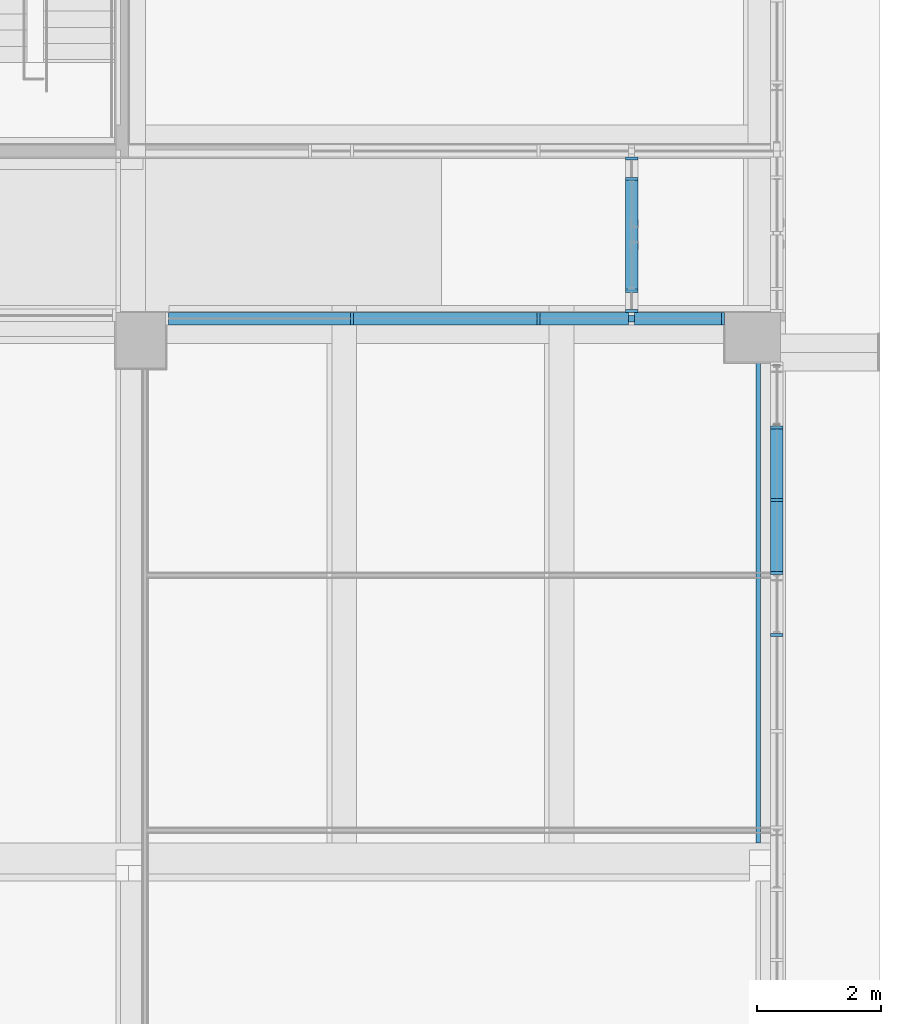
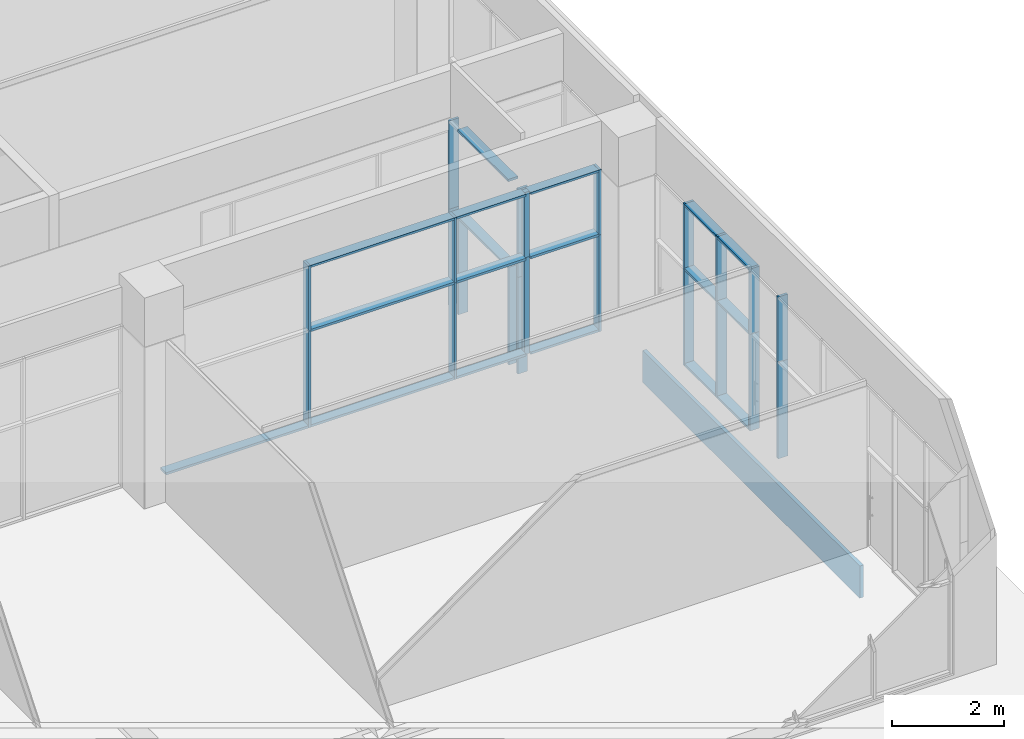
# One storey, part 12 of 100: 40 members, 1 beam, 3 elements without a shape of their own.
"""IFC2X3 building model written with IfcOpenShell, lengths in millimetres."""

from ifc_helpers import new_model, entity, si_unit, converted_unit, derived_unit, direction, frame, origin, origin_2d_with_axis, place, context, subcontext, project, spatial, rectangle, extrude, source, transform, mapped, material, material_list, type_object, type_shapes, element, aggregate, save


model = new_model("IFC2X3")

# Units and contexts
model_context = context("Model", 3, precision=0.01, world=origin(), true_north=direction((6.123031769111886e-17, 1.0)))
body_context = subcontext(model_context, "Body", "Model", "MODEL_VIEW")
ifc_project = project(units=[si_unit("LENGTHUNIT", "METRE", prefix="MILLI"), si_unit("AREAUNIT", "SQUARE_METRE"), si_unit("VOLUMEUNIT", "CUBIC_METRE"), converted_unit("PLANEANGLEUNIT", "DEGREE", entity("IfcRatioMeasure", 0.017453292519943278), si_unit("PLANEANGLEUNIT", "RADIAN"), dimensions=[0, 0, 0, 0, 0, 0, 0]), si_unit("MASSUNIT", "GRAM", prefix="KILO"), derived_unit("MASSDENSITYUNIT", [(si_unit("MASSUNIT", "GRAM", prefix="KILO"), 1), (si_unit("LENGTHUNIT", "METRE"), -3)]), derived_unit("MOMENTOFINERTIAUNIT", [(si_unit("LENGTHUNIT", "METRE"), 4)]), si_unit("TIMEUNIT", "SECOND"), si_unit("FREQUENCYUNIT", "HERTZ"), si_unit("THERMODYNAMICTEMPERATUREUNIT", "DEGREE_CELSIUS"), derived_unit("THERMALTRANSMITTANCEUNIT", [(si_unit("MASSUNIT", "GRAM", prefix="KILO"), 1), (si_unit("THERMODYNAMICTEMPERATUREUNIT", "KELVIN"), -1), (si_unit("TIMEUNIT", "SECOND"), -3)]), derived_unit("VOLUMETRICFLOWRATEUNIT", [(si_unit("LENGTHUNIT", "METRE"), 3), (si_unit("TIMEUNIT", "SECOND"), -1)]), derived_unit("MASSFLOWRATEUNIT", [(si_unit("MASSUNIT", "GRAM", prefix="KILO"), 1), (si_unit("TIMEUNIT", "SECOND"), -1)]), derived_unit("ROTATIONALFREQUENCYUNIT", [(si_unit("TIMEUNIT", "SECOND"), -1)]), si_unit("ELECTRICCURRENTUNIT", "AMPERE"), si_unit("ELECTRICVOLTAGEUNIT", "VOLT"), si_unit("POWERUNIT", "WATT"), si_unit("FORCEUNIT", "NEWTON", prefix="KILO"), si_unit("ILLUMINANCEUNIT", "LUX"), si_unit("LUMINOUSFLUXUNIT", "LUMEN"), si_unit("LUMINOUSINTENSITYUNIT", "CANDELA"), derived_unit("USERDEFINED", [(si_unit("MASSUNIT", "GRAM", prefix="KILO"), -1), (si_unit("LENGTHUNIT", "METRE"), -2), (si_unit("TIMEUNIT", "SECOND"), 3), (si_unit("LUMINOUSFLUXUNIT", "LUMEN"), 1)]), derived_unit("SOUNDPOWERUNIT", [(si_unit("MASSUNIT", "GRAM", prefix="KILO"), 1), (si_unit("LENGTHUNIT", "METRE"), 2), (si_unit("TIMEUNIT", "SECOND"), -3)]), derived_unit("SOUNDPRESSUREUNIT", [(si_unit("MASSUNIT", "GRAM", prefix="KILO"), 1), (si_unit("LENGTHUNIT", "METRE"), -1), (si_unit("TIMEUNIT", "SECOND"), -2)]), derived_unit("LINEARVELOCITYUNIT", [(si_unit("LENGTHUNIT", "METRE"), 1), (si_unit("TIMEUNIT", "SECOND"), -1)]), si_unit("PRESSUREUNIT", "PASCAL"), derived_unit("USERDEFINED", [(si_unit("LENGTHUNIT", "METRE"), -2), (si_unit("MASSUNIT", "GRAM", prefix="KILO"), 1), (si_unit("TIMEUNIT", "SECOND"), -2)]), derived_unit("LINEARFORCEUNIT", [(si_unit("MASSUNIT", "GRAM", prefix="KILO"), 1), (si_unit("LENGTHUNIT", "METRE"), 1), (si_unit("TIMEUNIT", "SECOND"), -2), (si_unit("LENGTHUNIT", "METRE"), -1)]), derived_unit("PLANARFORCEUNIT", [(si_unit("MASSUNIT", "GRAM", prefix="KILO"), 1), (si_unit("LENGTHUNIT", "METRE"), 1), (si_unit("TIMEUNIT", "SECOND"), -2), (si_unit("LENGTHUNIT", "METRE"), -2)])], contexts=[model_context])

# Site, building, storey
site_placement = place(None, frame((-14167.972527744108, -657.2125860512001, 0.0)))
site = spatial("IfcSite", under=ifc_project, at=site_placement, Name="Default", CompositionType="ELEMENT")
building_placement = place(site_placement, origin())
building = spatial("IfcBuilding", under=site, at=building_placement, Name="Sample Building", CompositionType="ELEMENT")
storey_placement = place(building_placement, origin())
storey = spatial("IfcBuildingStorey", under=building, at=storey_placement, Name="지상 1층", CompositionType="ELEMENT", Elevation=0.0)

# Curtain wall, member
curtain_wall_type = type_object("IfcCurtainWallType", Name="커튼월:CW112-스테인리스 스틸 커튼월", PredefinedType="NOTDEFINED")
curtain_wall_1_placement = place(storey_placement, origin())
curtain_wall_1 = element("IfcCurtainWall", 1, at=curtain_wall_1_placement, inside=storey, type_object=curtain_wall_type, Name="커튼월:CW112-스테인리스 스틸 커튼월", ObjectType="커튼월:CW112-스테인리스 스틸 커튼월")
ifc_material_1 = material(Name="<Unnamed>")
member_type_1 = type_object("IfcMemberType", Name="직사각형 멀리언:CW200-직사각형 멀리언 50x200mm", PredefinedType="MULLION", material=ifc_material_1)
shared_shape_1 = source(origin(), body_context, "Body", "SweptSolid", [
    extrude(rectangle(XDim=200.0, YDim=50.0, at=origin_2d_with_axis()), frame((-25.0, 0.0, -1420.0), z_axis=(0.0, 0.0, 1.0), x_axis=(0.0, -1.0, 0.0)), (0.0, 0.0, 1.0), 1420.0000000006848),
])
type_shapes(member_type_1, [shared_shape_1])
member_1_placement = place(curtain_wall_1_placement, frame((50567.97249113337, 12957.21238308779, 3600.0)))
member_1 = element("IfcMember", 2, at=member_1_placement, type_object=member_type_1, material=ifc_material_1, Name="직사각형 멀리언:CW200-직사각형 멀리언 50x200mm", ObjectType="직사각형 멀리언:CW200-직사각형 멀리언 50x200mm", context=body_context, shape_type="MappedRepresentation", body=[
    mapped(shared_shape_1, transform((0.0, 0.0, 0.0), scale=1.0)),
])

# Curtain wall, members
curtain_wall_2_placement = place(storey_placement, origin())
curtain_wall_2 = element("IfcCurtainWall", 3, at=curtain_wall_2_placement, inside=storey, type_object=curtain_wall_type, Name="커튼월:CW112-스테인리스 스틸 커튼월", ObjectType="커튼월:CW112-스테인리스 스틸 커튼월")
member_type_2 = type_object("IfcMemberType", Name="직사각형 멀리언:CW200-직사각형 멀리언 50x200mm", PredefinedType="MULLION", material=ifc_material_1)
shared_shape_2 = source(origin(), body_context, "Body", "SweptSolid", [
    extrude(rectangle(XDim=200.0, YDim=50.0, at=origin_2d_with_axis()), frame((0.0, 0.0, -2100.0), z_axis=(0.0, 0.0, 1.0), x_axis=(0.0, -1.0, 0.0)), (0.0, 0.0, 1.0), 2100.0),
])
type_shapes(member_type_2, [shared_shape_2])
member_2_placement = place(curtain_wall_2_placement, frame((51405.46382893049, 7867.177624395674, 80.0), z_axis=(0.0, 0.0, -1.0), x_axis=(0.0, 1.0, 0.0)))
member_2 = element("IfcMember", 4, at=member_2_placement, type_object=member_type_2, material=ifc_material_1, Name="직사각형 멀리언:CW200-직사각형 멀리언 50x200mm", ObjectType="직사각형 멀리언:CW200-직사각형 멀리언 50x200mm", context=body_context, shape_type="MappedRepresentation", body=[
    mapped(shared_shape_2, transform((0.0, 0.0, 0.0), scale=1.0)),
])
member_3_placement = place(curtain_wall_2_placement, frame((51405.46382893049, 8867.177624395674, 80.0), z_axis=(0.0, 0.0, -1.0), x_axis=(0.0, 1.0, 0.0)))
member_3 = element("IfcMember", 5, at=member_3_placement, type_object=member_type_2, material=ifc_material_1, Name="직사각형 멀리언:CW200-직사각형 멀리언 50x200mm", ObjectType="직사각형 멀리언:CW200-직사각형 멀리언 50x200mm", context=body_context, shape_type="MappedRepresentation", body=[
    mapped(shared_shape_2, transform((0.0, 0.0, 0.0), scale=1.0)),
])
member_4_placement = place(curtain_wall_2_placement, frame((51405.4638289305, 10037.177624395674, 80.0), z_axis=(0.0, 0.0, -1.0), x_axis=(0.0, 1.0, 0.0)))
member_4 = element("IfcMember", 6, at=member_4_placement, type_object=member_type_2, material=ifc_material_1, Name="직사각형 멀리언:CW200-직사각형 멀리언 50x200mm", ObjectType="직사각형 멀리언:CW200-직사각형 멀리언 50x200mm", context=body_context, shape_type="MappedRepresentation", body=[
    mapped(shared_shape_2, transform((0.0, 0.0, 0.0), scale=1.0)),
])
member_5_placement = place(curtain_wall_2_placement, frame((51405.4638289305, 11207.177624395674, 80.0), z_axis=(0.0, 0.0, -1.0), x_axis=(0.0, 1.0, 0.0)))
member_5 = element("IfcMember", 7, at=member_5_placement, type_object=member_type_2, material=ifc_material_1, Name="직사각형 멀리언:CW200-직사각형 멀리언 50x200mm", ObjectType="직사각형 멀리언:CW200-직사각형 멀리언 50x200mm", context=body_context, shape_type="MappedRepresentation", body=[
    mapped(shared_shape_2, transform((0.0, 0.0, 0.0), scale=1.0)),
])

# Member
member_6_placement = place(curtain_wall_1_placement, frame((44567.97249113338, 12957.212383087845, 80.0), z_axis=(0.0, 0.0, -1.0), x_axis=(-1.0, 0.0, 0.0)))
member_6 = element("IfcMember", 8, at=member_6_placement, type_object=member_type_2, material=ifc_material_1, Name="직사각형 멀리언:CW200-직사각형 멀리언 50x200mm", ObjectType="직사각형 멀리언:CW200-직사각형 멀리언 50x200mm", context=body_context, shape_type="MappedRepresentation", body=[
    mapped(shared_shape_2, transform((0.0, 0.0, 0.0), scale=1.0)),
])

member_7_placement = place(curtain_wall_1_placement, frame((47567.97249113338, 12957.212383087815, 80.0), z_axis=(0.0, 0.0, -1.0), x_axis=(-1.0, 0.0, 0.0)))
member_7 = element("IfcMember", 9, at=member_7_placement, type_object=member_type_2, material=ifc_material_1, Name="직사각형 멀리언:CW200-직사각형 멀리언 50x200mm", ObjectType="직사각형 멀리언:CW200-직사각형 멀리언 50x200mm", context=body_context, shape_type="MappedRepresentation", body=[
    mapped(shared_shape_2, transform((0.0, 0.0, 0.0), scale=1.0)),
])

member_type_3 = type_object("IfcMemberType", Name="직사각형 멀리언:CW200-직사각형 멀리언 50x200mm", PredefinedType="MULLION", material=ifc_material_1)
shared_shape_3 = source(origin(), body_context, "Body", "SweptSolid", [
    extrude(rectangle(XDim=200.0, YDim=50.0, at=origin_2d_with_axis()), frame((-25.0, 0.0, -2100.0), z_axis=(0.0, 0.0, 1.0), x_axis=(0.0, -1.0, 0.0)), (0.0, 0.0, 1.0), 2099.9999999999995),
])
type_shapes(member_type_3, [shared_shape_3])
member_8_placement = place(curtain_wall_1_placement, frame((50567.97249113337, 12957.21238308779, 2180.0)))
member_8 = element("IfcMember", 10, at=member_8_placement, type_object=member_type_3, material=ifc_material_1, Name="직사각형 멀리언:CW200-직사각형 멀리언 50x200mm", ObjectType="직사각형 멀리언:CW200-직사각형 멀리언 50x200mm", context=body_context, shape_type="MappedRepresentation", body=[
    mapped(shared_shape_3, transform((0.0, 0.0, 0.0), scale=1.0)),
])

member_type_4 = type_object("IfcMemberType", Name="직사각형 멀리언:CW200-직사각형 멀리언 50x200mm", PredefinedType="MULLION", material=ifc_material_1)
shared_shape_4 = source(origin(), body_context, "Body", "SweptSolid", [
    extrude(rectangle(XDim=200.0, YDim=50.0, at=origin_2d_with_axis()), frame((0.0, 0.0, -1420.0), z_axis=(0.0, 0.0, 1.0), x_axis=(0.0, -1.0, 0.0)), (0.0, 0.0, 1.0), 1420.0000000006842),
])
type_shapes(member_type_4, [shared_shape_4])
member_9_placement = place(curtain_wall_2_placement, frame((51405.46382893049, 7867.177624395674, 2180.0), z_axis=(0.0, 0.0, -1.0), x_axis=(0.0, 1.0, 0.0)))
member_9 = element("IfcMember", 11, at=member_9_placement, type_object=member_type_4, material=ifc_material_1, Name="직사각형 멀리언:CW200-직사각형 멀리언 50x200mm", ObjectType="직사각형 멀리언:CW200-직사각형 멀리언 50x200mm", context=body_context, shape_type="MappedRepresentation", body=[
    mapped(shared_shape_4, transform((0.0, 0.0, 0.0), scale=1.0)),
])

member_10_placement = place(curtain_wall_2_placement, frame((51405.46382893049, 8867.177624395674, 2180.0), z_axis=(0.0, 0.0, -1.0), x_axis=(0.0, 1.0, 0.0)))
member_10 = element("IfcMember", 12, at=member_10_placement, type_object=member_type_4, material=ifc_material_1, Name="직사각형 멀리언:CW200-직사각형 멀리언 50x200mm", ObjectType="직사각형 멀리언:CW200-직사각형 멀리언 50x200mm", context=body_context, shape_type="MappedRepresentation", body=[
    mapped(shared_shape_4, transform((0.0, 0.0, 0.0), scale=1.0)),
])

member_11_placement = place(curtain_wall_2_placement, frame((51405.4638289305, 10037.177624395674, 2180.0), z_axis=(0.0, 0.0, -1.0), x_axis=(0.0, 1.0, 0.0)))
member_11 = element("IfcMember", 13, at=member_11_placement, type_object=member_type_4, material=ifc_material_1, Name="직사각형 멀리언:CW200-직사각형 멀리언 50x200mm", ObjectType="직사각형 멀리언:CW200-직사각형 멀리언 50x200mm", context=body_context, shape_type="MappedRepresentation", body=[
    mapped(shared_shape_4, transform((0.0, 0.0, 0.0), scale=1.0)),
])

member_12_placement = place(curtain_wall_2_placement, frame((51405.4638289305, 11207.177624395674, 2180.0), z_axis=(0.0, 0.0, -1.0), x_axis=(0.0, 1.0, 0.0)))
member_12 = element("IfcMember", 14, at=member_12_placement, type_object=member_type_4, material=ifc_material_1, Name="직사각형 멀리언:CW200-직사각형 멀리언 50x200mm", ObjectType="직사각형 멀리언:CW200-직사각형 멀리언 50x200mm", context=body_context, shape_type="MappedRepresentation", body=[
    mapped(shared_shape_4, transform((0.0, 0.0, 0.0), scale=1.0)),
])

member_13_placement = place(curtain_wall_1_placement, frame((47567.97249113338, 12957.212383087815, 2180.0), z_axis=(0.0, 0.0, -1.0), x_axis=(-1.0, 0.0, 0.0)))
member_13 = element("IfcMember", 15, at=member_13_placement, type_object=member_type_4, material=ifc_material_1, Name="직사각형 멀리언:CW200-직사각형 멀리언 50x200mm", ObjectType="직사각형 멀리언:CW200-직사각형 멀리언 50x200mm", context=body_context, shape_type="MappedRepresentation", body=[
    mapped(shared_shape_4, transform((0.0, 0.0, 0.0), scale=1.0)),
])

member_14_placement = place(curtain_wall_1_placement, frame((44567.97249113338, 12957.212383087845, 2180.0), z_axis=(0.0, 0.0, -1.0), x_axis=(-1.0, 0.0, 0.0)))
member_14 = element("IfcMember", 16, at=member_14_placement, type_object=member_type_4, material=ifc_material_1, Name="직사각형 멀리언:CW200-직사각형 멀리언 50x200mm", ObjectType="직사각형 멀리언:CW200-직사각형 멀리언 50x200mm", context=body_context, shape_type="MappedRepresentation", body=[
    mapped(shared_shape_4, transform((0.0, 0.0, 0.0), scale=1.0)),
])

member_type_5 = type_object("IfcMemberType", Name="직사각형 멀리언:CW200-직사각형 멀리언 50x200mm", PredefinedType="MULLION", material=ifc_material_1)
shared_shape_5 = source(origin(), body_context, "Body", "SweptSolid", [
    extrude(rectangle(XDim=200.0, YDim=50.0, at=origin_2d_with_axis()), frame((-25.0, 0.0, -1120.0), z_axis=(0.0, 0.0, 1.0), x_axis=(0.0, -1.0, 0.0)), (0.0, 0.0, 1.0), 1120.0000000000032),
])
type_shapes(member_type_5, [shared_shape_5])
member_15_placement = place(curtain_wall_2_placement, frame((51405.4638289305, 10012.177624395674, 3600.0), z_axis=(0.0, 1.0, 0.0), x_axis=(0.0, 0.0, 1.0)))
member_15 = element("IfcMember", 17, at=member_15_placement, type_object=member_type_5, material=ifc_material_1, Name="직사각형 멀리언:CW200-직사각형 멀리언 50x200mm", ObjectType="직사각형 멀리언:CW200-직사각형 멀리언 50x200mm", context=body_context, shape_type="MappedRepresentation", body=[
    mapped(shared_shape_5, transform((0.0, 0.0, 0.0), scale=1.0)),
])

member_16_placement = place(curtain_wall_2_placement, frame((51405.4638289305, 11182.177624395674, 3600.0), z_axis=(0.0, 1.0, 0.0), x_axis=(0.0, 0.0, 1.0)))
member_16 = element("IfcMember", 18, at=member_16_placement, type_object=member_type_5, material=ifc_material_1, Name="직사각형 멀리언:CW200-직사각형 멀리언 50x200mm", ObjectType="직사각형 멀리언:CW200-직사각형 멀리언 50x200mm", context=body_context, shape_type="MappedRepresentation", body=[
    mapped(shared_shape_5, transform((0.0, 0.0, 0.0), scale=1.0)),
])

member_type_6 = type_object("IfcMemberType", Name="직사각형 멀리언:CW200-직사각형 멀리언 50x200mm", PredefinedType="MULLION", material=ifc_material_1)
shared_shape_6 = source(origin(), body_context, "Body", "SweptSolid", [
    extrude(rectangle(XDim=200.0, YDim=50.0, at=origin_2d_with_axis()), frame((-25.0, 0.0, -1120.0), z_axis=(0.0, 0.0, 1.0), x_axis=(0.0, -1.0, 0.0)), (0.0, 0.0, 1.0), 1120.0000000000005),
])
type_shapes(member_type_6, [shared_shape_6])
member_17_placement = place(curtain_wall_2_placement, frame((51405.46382893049, 8892.177624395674, 80.0), z_axis=(0.0, -1.0, 0.0), x_axis=(0.0, 0.0, -1.0)))
member_17 = element("IfcMember", 19, at=member_17_placement, type_object=member_type_6, material=ifc_material_1, Name="직사각형 멀리언:CW200-직사각형 멀리언 50x200mm", ObjectType="직사각형 멀리언:CW200-직사각형 멀리언 50x200mm", context=body_context, shape_type="MappedRepresentation", body=[
    mapped(shared_shape_6, transform((0.0, 0.0, 0.0), scale=1.0)),
])

member_18_placement = place(curtain_wall_2_placement, frame((51405.4638289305, 10062.177624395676, 80.0), z_axis=(0.0, -1.0, 0.0), x_axis=(0.0, 0.0, -1.0)))
member_18 = element("IfcMember", 20, at=member_18_placement, type_object=member_type_6, material=ifc_material_1, Name="직사각형 멀리언:CW200-직사각형 멀리언 50x200mm", ObjectType="직사각형 멀리언:CW200-직사각형 멀리언 50x200mm", context=body_context, shape_type="MappedRepresentation", body=[
    mapped(shared_shape_6, transform((0.0, 0.0, 0.0), scale=1.0)),
])

member_type_7 = type_object("IfcMemberType", Name="직사각형 멀리언:CW200-직사각형 멀리언 50x200mm", PredefinedType="MULLION", material=ifc_material_1)
shared_shape_7 = source(origin(), body_context, "Body", "SweptSolid", [
    extrude(rectangle(XDim=200.0, YDim=50.0, at=origin_2d_with_axis()), frame((0.0, 0.0, -1120.0), z_axis=(0.0, 0.0, 1.0), x_axis=(0.0, -1.0, 0.0)), (0.0, 0.0, 1.0), 1120.0000000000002),
])
type_shapes(member_type_7, [shared_shape_7])
member_19_placement = place(curtain_wall_2_placement, frame((51405.4638289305, 10012.177624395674, 2180.0), z_axis=(0.0, 1.0, 0.0), x_axis=(0.0, 0.0, 1.0)))
member_19 = element("IfcMember", 21, at=member_19_placement, type_object=member_type_7, material=ifc_material_1, Name="직사각형 멀리언:CW200-직사각형 멀리언 50x200mm", ObjectType="직사각형 멀리언:CW200-직사각형 멀리언 50x200mm", context=body_context, shape_type="MappedRepresentation", body=[
    mapped(shared_shape_7, transform((0.0, 0.0, 0.0), scale=1.0)),
])

member_20_placement = place(curtain_wall_2_placement, frame((51405.4638289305, 11182.177624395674, 2180.0), z_axis=(0.0, 1.0, 0.0), x_axis=(0.0, 0.0, 1.0)))
member_20 = element("IfcMember", 22, at=member_20_placement, type_object=member_type_7, material=ifc_material_1, Name="직사각형 멀리언:CW200-직사각형 멀리언 50x200mm", ObjectType="직사각형 멀리언:CW200-직사각형 멀리언 50x200mm", context=body_context, shape_type="MappedRepresentation", body=[
    mapped(shared_shape_7, transform((0.0, 0.0, 0.0), scale=1.0)),
])

aggregate(curtain_wall_2, [member_2, member_17, member_3, member_15, member_18, member_4, member_16, member_5, member_19, member_20, member_9, member_10, member_11, member_12])

member_type_8 = type_object("IfcMemberType", Name="직사각형 멀리언:CW200-직사각형 멀리언 50x200mm", PredefinedType="MULLION", material=ifc_material_1)
shared_shape_8 = source(origin(), body_context, "Body", "SweptSolid", [
    extrude(rectangle(XDim=200.0, YDim=50.0, at=origin_2d_with_axis()), frame((-25.0, 0.0, -1400.0), z_axis=(0.0, 0.0, 1.0), x_axis=(0.0, -1.0, 0.0)), (0.0, 0.0, 1.0), 1399.9999999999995),
])
type_shapes(member_type_8, [shared_shape_8])
member_21_placement = place(curtain_wall_1_placement, frame((50517.97249113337, 12957.21238308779, 80.0), z_axis=(1.0, 0.0, 0.0), x_axis=(0.0, 0.0, -1.0)))
member_21 = element("IfcMember", 23, at=member_21_placement, type_object=member_type_8, material=ifc_material_1, Name="직사각형 멀리언:CW200-직사각형 멀리언 50x200mm", ObjectType="직사각형 멀리언:CW200-직사각형 멀리언 50x200mm", context=body_context, shape_type="MappedRepresentation", body=[
    mapped(shared_shape_8, transform((0.0, 0.0, 0.0), scale=1.0)),
])

member_type_9 = type_object("IfcMemberType", Name="직사각형 멀리언:CW200-직사각형 멀리언 50x200mm", PredefinedType="MULLION", material=ifc_material_1)
shared_shape_9 = source(origin(), body_context, "Body", "SweptSolid", [
    extrude(rectangle(XDim=200.0, YDim=50.0, at=origin_2d_with_axis()), frame((0.0, 0.0, -1400.0), z_axis=(0.0, 0.0, 1.0), x_axis=(0.0, -1.0, 0.0)), (0.0, 0.0, 1.0), 1399.9999999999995),
])
type_shapes(member_type_9, [shared_shape_9])
member_22_placement = place(curtain_wall_1_placement, frame((49117.972491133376, 12957.212383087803, 2180.0), z_axis=(-1.0, 0.0, 0.0), x_axis=(0.0, 0.0, 1.0)))
member_22 = element("IfcMember", 24, at=member_22_placement, type_object=member_type_9, material=ifc_material_1, Name="직사각형 멀리언:CW200-직사각형 멀리언 50x200mm", ObjectType="직사각형 멀리언:CW200-직사각형 멀리언 50x200mm", context=body_context, shape_type="MappedRepresentation", body=[
    mapped(shared_shape_9, transform((0.0, 0.0, 0.0), scale=1.0)),
])

member_type_10 = type_object("IfcMemberType", Name="직사각형 멀리언:CW200-직사각형 멀리언 50x200mm", PredefinedType="MULLION", material=ifc_material_1)
shared_shape_10 = source(origin(), body_context, "Body", "SweptSolid", [
    extrude(rectangle(XDim=200.0, YDim=50.0, at=origin_2d_with_axis()), frame((-25.0, 0.0, -1400.0), z_axis=(0.0, 0.0, 1.0), x_axis=(0.0, -1.0, 0.0)), (0.0, 0.0, 1.0), 1399.9999999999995),
])
type_shapes(member_type_10, [shared_shape_10])
member_23_placement = place(curtain_wall_1_placement, frame((49117.972491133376, 12957.212383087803, 3600.0), z_axis=(-1.0, 0.0, 0.0), x_axis=(0.0, 0.0, 1.0)))
member_23 = element("IfcMember", 25, at=member_23_placement, type_object=member_type_10, material=ifc_material_1, Name="직사각형 멀리언:CW200-직사각형 멀리언 50x200mm", ObjectType="직사각형 멀리언:CW200-직사각형 멀리언 50x200mm", context=body_context, shape_type="MappedRepresentation", body=[
    mapped(shared_shape_10, transform((0.0, 0.0, 0.0), scale=1.0)),
])

member_type_11 = type_object("IfcMemberType", Name="직사각형 멀리언:CW200-직사각형 멀리언 100 x 100mm", PredefinedType="MULLION", material=ifc_material_1)
shared_shape_11 = source(origin(), body_context, "Body", "SweptSolid", [
    extrude(rectangle(XDim=100.0, YDim=100.0, at=origin_2d_with_axis()), frame((0.0, 0.0, -2100.0), z_axis=(0.0, 0.0, 1.0), x_axis=(0.0, -1.0, 0.0)), (0.0, 0.0, 1.0), 2100.0),
])
type_shapes(member_type_11, [shared_shape_11])
member_24_placement = place(curtain_wall_1_placement, frame((49067.97249113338, 12957.212383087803, 80.0), z_axis=(0.0, 0.0, -1.0), x_axis=(-1.0, 0.0, 0.0)))
member_24 = element("IfcMember", 26, at=member_24_placement, type_object=member_type_11, material=ifc_material_1, Name="직사각형 멀리언:CW200-직사각형 멀리언 100 x 100mm", ObjectType="직사각형 멀리언:CW200-직사각형 멀리언 100 x 100mm", context=body_context, shape_type="MappedRepresentation", body=[
    mapped(shared_shape_11, transform((0.0, 0.0, 0.0), scale=1.0)),
])

# Curtain wall, members
curtain_wall_3_placement = place(storey_placement, origin())
curtain_wall_3 = element("IfcCurtainWall", 27, at=curtain_wall_3_placement, inside=storey, type_object=curtain_wall_type, Name="커튼월:CW112-스테인리스 스틸 커튼월", ObjectType="커튼월:CW112-스테인리스 스틸 커튼월")
member_type_12 = type_object("IfcMemberType", Name="직사각형 멀리언:CW200-직사각형 멀리언 50x200mm", PredefinedType="MULLION", material=ifc_material_1)
shared_shape_12 = source(origin(), body_context, "Body", "SweptSolid", [
    extrude(rectangle(XDim=200.0, YDim=50.0, at=origin_2d_with_axis()), frame((-25.0, 0.0, -2100.0), z_axis=(0.0, 0.0, 1.0), x_axis=(0.0, -1.0, 0.0)), (0.0, 0.0, 1.0), 2100.0),
])
type_shapes(member_type_12, [shared_shape_12])
member_25_placement = place(curtain_wall_3_placement, frame((49067.97249113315, 13057.212383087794, -420.0), z_axis=(0.0, 0.0, -1.0), x_axis=(0.0, -1.0, 0.0)))
member_25 = element("IfcMember", 28, at=member_25_placement, type_object=member_type_12, material=ifc_material_1, Name="직사각형 멀리언:CW200-직사각형 멀리언 50x200mm", ObjectType="직사각형 멀리언:CW200-직사각형 멀리언 50x200mm", context=body_context, shape_type="MappedRepresentation", body=[
    mapped(shared_shape_12, transform((0.0, 0.0, 0.0), scale=1.0)),
])
member_type_13 = type_object("IfcMemberType", Name="직사각형 멀리언:CW200-직사각형 멀리언 50x200mm", PredefinedType="MULLION", material=ifc_material_1)
shared_shape_13 = source(origin(), body_context, "Body", "SweptSolid", [
    extrude(rectangle(XDim=200.0, YDim=50.0, at=origin_2d_with_axis()), frame((-25.0, 0.0, -1920.0), z_axis=(0.0, 0.0, 1.0), x_axis=(0.0, -1.0, 0.0)), (0.0, 0.0, 1.0), 1920.0000000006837),
])
type_shapes(member_type_13, [shared_shape_13])
member_26_placement = place(curtain_wall_3_placement, frame((49067.972491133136, 15557.212295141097, 3600.0), z_axis=(0.0, 0.0, 1.0), x_axis=(0.0, 1.0, 0.0)))
member_26 = element("IfcMember", 29, at=member_26_placement, type_object=member_type_13, material=ifc_material_1, Name="직사각형 멀리언:CW200-직사각형 멀리언 50x200mm", ObjectType="직사각형 멀리언:CW200-직사각형 멀리언 50x200mm", context=body_context, shape_type="MappedRepresentation", body=[
    mapped(shared_shape_13, transform((0.0, 0.0, 0.0), scale=1.0)),
])
member_type_14 = type_object("IfcMemberType", Name="직사각형 멀리언:CW200-직사각형 멀리언 50x200mm", PredefinedType="MULLION", material=ifc_material_1)
shared_shape_14 = source(origin(), body_context, "Body", "SweptSolid", [
    extrude(rectangle(XDim=200.0, YDim=50.0, at=origin_2d_with_axis()), frame((-25.0, 0.0, -1799.9999120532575), z_axis=(0.0, 0.0, 1.0), x_axis=(0.0, -1.0, 0.0)), (0.0, 0.0, 1.0), 1799.9999120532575),
])
type_shapes(member_type_14, [shared_shape_14])
member_27_placement = place(curtain_wall_3_placement, frame((49067.972491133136, 13407.212383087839, 3600.0), z_axis=(0.0, -1.0, 0.0), x_axis=(0.0, 0.0, 1.0)))
member_27 = element("IfcMember", 30, at=member_27_placement, type_object=member_type_14, material=ifc_material_1, Name="직사각형 멀리언:CW200-직사각형 멀리언 50x200mm", ObjectType="직사각형 멀리언:CW200-직사각형 멀리언 50x200mm", context=body_context, shape_type="MappedRepresentation", body=[
    mapped(shared_shape_14, transform((0.0, 0.0, 0.0), scale=1.0)),
])
member_type_15 = type_object("IfcMemberType", Name="직사각형 멀리언:CW200-직사각형 멀리언 50x200mm", PredefinedType="MULLION", material=ifc_material_1)
shared_shape_15 = source(origin(), body_context, "Body", "SweptSolid", [
    extrude(rectangle(XDim=200.0, YDim=50.0, at=origin_2d_with_axis()), frame((0.0, 0.0, -2125.0), z_axis=(0.0, 0.0, 1.0), x_axis=(0.0, -1.0, 0.0)), (0.0, 0.0, 1.0), 2125.0),
])
type_shapes(member_type_15, [shared_shape_15])
member_28_placement = place(curtain_wall_3_placement, frame((49067.972491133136, 13407.212383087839, -420.0), z_axis=(0.0, 0.0, -1.0), x_axis=(0.0, -1.0, 0.0)))
member_28 = element("IfcMember", 31, at=member_28_placement, type_object=member_type_15, material=ifc_material_1, Name="직사각형 멀리언:CW200-직사각형 멀리언 50x200mm", ObjectType="직사각형 멀리언:CW200-직사각형 멀리언 50x200mm", context=body_context, shape_type="MappedRepresentation", body=[
    mapped(shared_shape_15, transform((0.0, 0.0, 0.0), scale=1.0)),
])
member_29_placement = place(curtain_wall_3_placement, frame((49067.972491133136, 15207.212295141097, -420.0), z_axis=(0.0, 0.0, -1.0), x_axis=(0.0, -1.0, 0.0)))
member_29 = element("IfcMember", 32, at=member_29_placement, type_object=member_type_15, material=ifc_material_1, Name="직사각형 멀리언:CW200-직사각형 멀리언 50x200mm", ObjectType="직사각형 멀리언:CW200-직사각형 멀리언 50x200mm", context=body_context, shape_type="MappedRepresentation", body=[
    mapped(shared_shape_15, transform((0.0, 0.0, 0.0), scale=1.0)),
])
member_type_16 = type_object("IfcMemberType", Name="직사각형 멀리언:CW200-직사각형 멀리언 50x200mm", PredefinedType="MULLION", material=ifc_material_1)
shared_shape_16 = source(origin(), body_context, "Body", "SweptSolid", [
    extrude(rectangle(XDim=200.0, YDim=50.0, at=origin_2d_with_axis()), frame((-25.0, 0.0, -1920.0), z_axis=(0.0, 0.0, 1.0), x_axis=(0.0, -1.0, 0.0)), (0.0, 0.0, 1.0), 1920.000000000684),
])
type_shapes(member_type_16, [shared_shape_16])
member_30_placement = place(curtain_wall_3_placement, frame((49067.97249113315, 13057.212383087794, 1680.0), z_axis=(0.0, 0.0, -1.0), x_axis=(0.0, -1.0, 0.0)))
member_30 = element("IfcMember", 33, at=member_30_placement, type_object=member_type_16, material=ifc_material_1, Name="직사각형 멀리언:CW200-직사각형 멀리언 50x200mm", ObjectType="직사각형 멀리언:CW200-직사각형 멀리언 50x200mm", context=body_context, shape_type="MappedRepresentation", body=[
    mapped(shared_shape_16, transform((0.0, 0.0, 0.0), scale=1.0)),
])
member_type_17 = type_object("IfcMemberType", Name="직사각형 멀리언:CW200-직사각형 멀리언 50x200mm", PredefinedType="MULLION", material=ifc_material_1)
shared_shape_17 = source(origin(), body_context, "Body", "SweptSolid", [
    extrude(rectangle(XDim=200.0, YDim=50.0, at=origin_2d_with_axis()), frame((-25.0, 0.0, -2100.0), z_axis=(0.0, 0.0, 1.0), x_axis=(0.0, -1.0, 0.0)), (0.0, 0.0, 1.0), 2100.0),
])
type_shapes(member_type_17, [shared_shape_17])
member_31_placement = place(curtain_wall_3_placement, frame((49067.972491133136, 15557.212295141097, 1680.0), z_axis=(0.0, 0.0, 1.0), x_axis=(0.0, 1.0, 0.0)))
member_31 = element("IfcMember", 34, at=member_31_placement, type_object=member_type_17, material=ifc_material_1, Name="직사각형 멀리언:CW200-직사각형 멀리언 50x200mm", ObjectType="직사각형 멀리언:CW200-직사각형 멀리언 50x200mm", context=body_context, shape_type="MappedRepresentation", body=[
    mapped(shared_shape_17, transform((0.0, 0.0, 0.0), scale=1.0)),
])
member_type_18 = type_object("IfcMemberType", Name="직사각형 멀리언:CW200-직사각형 멀리언 50x200mm", PredefinedType="MULLION", material=ifc_material_1)
shared_shape_18 = source(origin(), body_context, "Body", "SweptSolid", [
    extrude(rectangle(XDim=200.0, YDim=50.0, at=origin_2d_with_axis()), frame((0.0, 0.0, -1749.9999120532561), z_axis=(0.0, 0.0, 1.0), x_axis=(0.0, -1.0, 0.0)), (0.0, 0.0, 1.0), 1749.999912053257),
])
type_shapes(member_type_18, [shared_shape_18])
member_32_placement = place(curtain_wall_3_placement, frame((49067.972491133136, 13432.21238308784, 1680.0), z_axis=(0.0, -1.0, 0.0), x_axis=(0.0, 0.0, 1.0)))
member_32 = element("IfcMember", 35, at=member_32_placement, type_object=member_type_18, material=ifc_material_1, Name="직사각형 멀리언:CW200-직사각형 멀리언 50x200mm", ObjectType="직사각형 멀리언:CW200-직사각형 멀리언 50x200mm", context=body_context, shape_type="MappedRepresentation", body=[
    mapped(shared_shape_18, transform((0.0, 0.0, 0.0), scale=1.0)),
])
aggregate(curtain_wall_3, [member_25, member_26, member_27, member_28, member_29, member_30, member_31, member_32])

# Member
member_type_19 = type_object("IfcMemberType", Name="직사각형 멀리언:CW200-직사각형 멀리언 50x200mm", PredefinedType="MULLION", material=ifc_material_1)
shared_shape_19 = source(origin(), body_context, "Body", "SweptSolid", [
    extrude(rectangle(XDim=200.0, YDim=50.0, at=origin_2d_with_axis()), frame((-25.0, 0.0, -2950.0), z_axis=(0.0, 0.0, 1.0), x_axis=(0.0, -1.0, 0.0)), (0.0, 0.0, 1.0), 2950.0000000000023),
])
type_shapes(member_type_19, [shared_shape_19])
member_33_placement = place(curtain_wall_1_placement, frame((44592.97249113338, 12957.212383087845, 3600.0), z_axis=(-1.0, 0.0, 0.0), x_axis=(0.0, 0.0, 1.0)))
member_33 = element("IfcMember", 36, at=member_33_placement, type_object=member_type_19, material=ifc_material_1, Name="직사각형 멀리언:CW200-직사각형 멀리언 50x200mm", ObjectType="직사각형 멀리언:CW200-직사각형 멀리언 50x200mm", context=body_context, shape_type="MappedRepresentation", body=[
    mapped(shared_shape_19, transform((0.0, 0.0, 0.0), scale=1.0)),
])

member_type_20 = type_object("IfcMemberType", Name="직사각형 멀리언:CW200-직사각형 멀리언 50x200mm", PredefinedType="MULLION", material=ifc_material_1)
shared_shape_20 = source(origin(), body_context, "Body", "SweptSolid", [
    extrude(rectangle(XDim=200.0, YDim=50.0, at=origin_2d_with_axis()), frame((-25.0, 0.0, -1425.0), z_axis=(0.0, 0.0, 1.0), x_axis=(0.0, -1.0, 0.0)), (0.0, 0.0, 1.0), 1424.9999999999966),
])
type_shapes(member_type_20, [shared_shape_20])
member_34_placement = place(curtain_wall_1_placement, frame((47592.97249113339, 12957.212383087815, 3600.0), z_axis=(-1.0, 0.0, 0.0), x_axis=(0.0, 0.0, 1.0)))
member_34 = element("IfcMember", 37, at=member_34_placement, type_object=member_type_20, material=ifc_material_1, Name="직사각형 멀리언:CW200-직사각형 멀리언 50x200mm", ObjectType="직사각형 멀리언:CW200-직사각형 멀리언 50x200mm", context=body_context, shape_type="MappedRepresentation", body=[
    mapped(shared_shape_20, transform((0.0, 0.0, 0.0), scale=1.0)),
])

member_type_21 = type_object("IfcMemberType", Name="직사각형 멀리언:CW200-직사각형 멀리언 50x200mm", PredefinedType="MULLION", material=ifc_material_1)
shared_shape_21 = source(origin(), body_context, "Body", "SweptSolid", [
    extrude(rectangle(XDim=200.0, YDim=50.0, at=origin_2d_with_axis()), frame((0.0, 0.0, -1425.0), z_axis=(0.0, 0.0, 1.0), x_axis=(0.0, -1.0, 0.0)), (0.0, 0.0, 1.0), 1424.9999999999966),
])
type_shapes(member_type_21, [shared_shape_21])
member_35_placement = place(curtain_wall_1_placement, frame((47592.97249113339, 12957.212383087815, 2180.0), z_axis=(-1.0, 0.0, 0.0), x_axis=(0.0, 0.0, 1.0)))
member_35 = element("IfcMember", 38, at=member_35_placement, type_object=member_type_21, material=ifc_material_1, Name="직사각형 멀리언:CW200-직사각형 멀리언 50x200mm", ObjectType="직사각형 멀리언:CW200-직사각형 멀리언 50x200mm", context=body_context, shape_type="MappedRepresentation", body=[
    mapped(shared_shape_21, transform((0.0, 0.0, 0.0), scale=1.0)),
])

member_type_22 = type_object("IfcMemberType", Name="직사각형 멀리언:CW200-직사각형 멀리언 50x200mm", PredefinedType="MULLION", material=ifc_material_1)
shared_shape_22 = source(origin(), body_context, "Body", "SweptSolid", [
    extrude(rectangle(XDim=200.0, YDim=50.0, at=origin_2d_with_axis()), frame((0.0, 0.0, -2950.0), z_axis=(0.0, 0.0, 1.0), x_axis=(0.0, -1.0, 0.0)), (0.0, 0.0, 1.0), 2950.0000000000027),
])
type_shapes(member_type_22, [shared_shape_22])
member_36_placement = place(curtain_wall_1_placement, frame((44592.97249113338, 12957.212383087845, 2180.0), z_axis=(-1.0, 0.0, 0.0), x_axis=(0.0, 0.0, 1.0)))
member_36 = element("IfcMember", 39, at=member_36_placement, type_object=member_type_22, material=ifc_material_1, Name="직사각형 멀리언:CW200-직사각형 멀리언 50x200mm", ObjectType="직사각형 멀리언:CW200-직사각형 멀리언 50x200mm", context=body_context, shape_type="MappedRepresentation", body=[
    mapped(shared_shape_22, transform((0.0, 0.0, 0.0), scale=1.0)),
])

member_type_23 = type_object("IfcMemberType", Name="직사각형 멀리언:CW200-직사각형 멀리언 100 x 100mm", PredefinedType="MULLION", material=ifc_material_1)
shared_shape_23 = source(origin(), body_context, "Body", "SweptSolid", [
    extrude(rectangle(XDim=100.0, YDim=100.0, at=origin_2d_with_axis()), frame((0.0, 0.0, -1420.0), z_axis=(0.0, 0.0, 1.0), x_axis=(0.0, -1.0, 0.0)), (0.0, 0.0, 1.0), 1420.0000000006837),
])
type_shapes(member_type_23, [shared_shape_23])
member_37_placement = place(curtain_wall_1_placement, frame((49067.97249113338, 12957.212383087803, 2180.0), z_axis=(0.0, 0.0, -1.0), x_axis=(-1.0, 0.0, 0.0)))
member_37 = element("IfcMember", 40, at=member_37_placement, type_object=member_type_23, material=ifc_material_1, Name="직사각형 멀리언:CW200-직사각형 멀리언 100 x 100mm", ObjectType="직사각형 멀리언:CW200-직사각형 멀리언 100 x 100mm", context=body_context, shape_type="MappedRepresentation", body=[
    mapped(shared_shape_23, transform((0.0, 0.0, 0.0), scale=1.0)),
])

member_type_24 = type_object("IfcMemberType", Name="직사각형 멀리언:CW200-직사각형 멀리언 50x200mm", PredefinedType="MULLION", material=ifc_material_1)
shared_shape_24 = source(origin(), body_context, "Body", "SweptSolid", [
    extrude(rectangle(XDim=200.0, YDim=50.0, at=origin_2d_with_axis()), frame((-25.0, 0.0, -2925.0), z_axis=(0.0, 0.0, 1.0), x_axis=(0.0, -1.0, 0.0)), (0.0, 0.0, 1.0), 2925.0000000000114),
])
type_shapes(member_type_24, [shared_shape_24])
member_38_placement = place(curtain_wall_1_placement, frame((44542.972491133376, 12957.212383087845, 80.0), z_axis=(1.0, 0.0, 0.0), x_axis=(0.0, 0.0, -1.0)))
member_38 = element("IfcMember", 41, at=member_38_placement, type_object=member_type_24, material=ifc_material_1, Name="직사각형 멀리언:CW200-직사각형 멀리언 50x200mm", ObjectType="직사각형 멀리언:CW200-직사각형 멀리언 50x200mm", context=body_context, shape_type="MappedRepresentation", body=[
    mapped(shared_shape_24, transform((0.0, 0.0, 0.0), scale=1.0)),
])

member_type_25 = type_object("IfcMemberType", Name="직사각형 멀리언:CW200-직사각형 멀리언 50x200mm", PredefinedType="MULLION", material=ifc_material_1)
shared_shape_25 = source(origin(), body_context, "Body", "SweptSolid", [
    extrude(rectangle(XDim=200.0, YDim=50.0, at=origin_2d_with_axis()), frame((-25.0, 0.0, -2950.0), z_axis=(0.0, 0.0, 1.0), x_axis=(0.0, -1.0, 0.0)), (0.0, 0.0, 1.0), 2950.0000000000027),
])
type_shapes(member_type_25, [shared_shape_25])
member_39_placement = place(curtain_wall_1_placement, frame((47542.97249113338, 12957.212383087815, 80.0), z_axis=(1.0, 0.0, 0.0), x_axis=(0.0, 0.0, -1.0)))
member_39 = element("IfcMember", 42, at=member_39_placement, type_object=member_type_25, material=ifc_material_1, Name="직사각형 멀리언:CW200-직사각형 멀리언 50x200mm", ObjectType="직사각형 멀리언:CW200-직사각형 멀리언 50x200mm", context=body_context, shape_type="MappedRepresentation", body=[
    mapped(shared_shape_25, transform((0.0, 0.0, 0.0), scale=1.0)),
])

member_type_26 = type_object("IfcMemberType", Name="직사각형 멀리언:CW200-직사각형 멀리언 50x200mm", PredefinedType="MULLION", material=ifc_material_1)
shared_shape_26 = source(origin(), body_context, "Body", "SweptSolid", [
    extrude(rectangle(XDim=200.0, YDim=50.0, at=origin_2d_with_axis()), frame((-25.0, 0.0, -1425.0), z_axis=(0.0, 0.0, 1.0), x_axis=(0.0, -1.0, 0.0)), (0.0, 0.0, 1.0), 1424.9999999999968),
])
type_shapes(member_type_26, [shared_shape_26])
member_40_placement = place(curtain_wall_1_placement, frame((49017.97249113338, 12957.212383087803, 80.0), z_axis=(1.0, 0.0, 0.0), x_axis=(0.0, 0.0, -1.0)))
member_40 = element("IfcMember", 43, at=member_40_placement, type_object=member_type_26, material=ifc_material_1, Name="직사각형 멀리언:CW200-직사각형 멀리언 50x200mm", ObjectType="직사각형 멀리언:CW200-직사각형 멀리언 50x200mm", context=body_context, shape_type="MappedRepresentation", body=[
    mapped(shared_shape_26, transform((0.0, 0.0, 0.0), scale=1.0)),
])

aggregate(curtain_wall_1, [member_1, member_33, member_6, member_34, member_7, member_23, member_24, member_8, member_22, member_35, member_36, member_37, member_13, member_14, member_21, member_38, member_39, member_40])

# Beam
ifc_material_2 = material(Name="KBIMS-콘크리트")
ifc_material_list = material_list([ifc_material_2, ifc_material_2])
beam_type = type_object("IfcBeamType", Name="BM111-철근콘크리트구조 보:BM110-철근 콘크리트구조 보_400 x 850_B1-1G2", PredefinedType="BEAM", material=ifc_material_list)
beam_placement = place(storey_placement, frame((51267.94647957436, 12657.212617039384, 0.0), z_axis=(0.0, 0.0, 1.0), x_axis=(0.0, -1.0, 0.0)))
element("IfcBeam", 44, at=beam_placement, inside=storey, type_object=beam_type, material=ifc_material_2, Name="BM111-철근콘크리트구조 보:BM110-철근 콘크리트구조 보_400 x 850_B1-1G2", ObjectType="BM111-철근콘크리트구조 보:BM110-철근 콘크리트구조 보_400 x 850_B1-1G2", context=body_context, shape_type="SweptSolid", body=[
    extrude(rectangle(XDim=700.0000000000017, YDim=75.29945030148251, at=origin_2d_with_axis()), frame((399.99957810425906, -162.35027484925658, -500.0), z_axis=(1.0, 0.0, 0.0), x_axis=(0.0, 0.0, -1.0)), (0.0, 0.0, 1.0), 7736.1358486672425),
])

save(model, "model.ifc")
